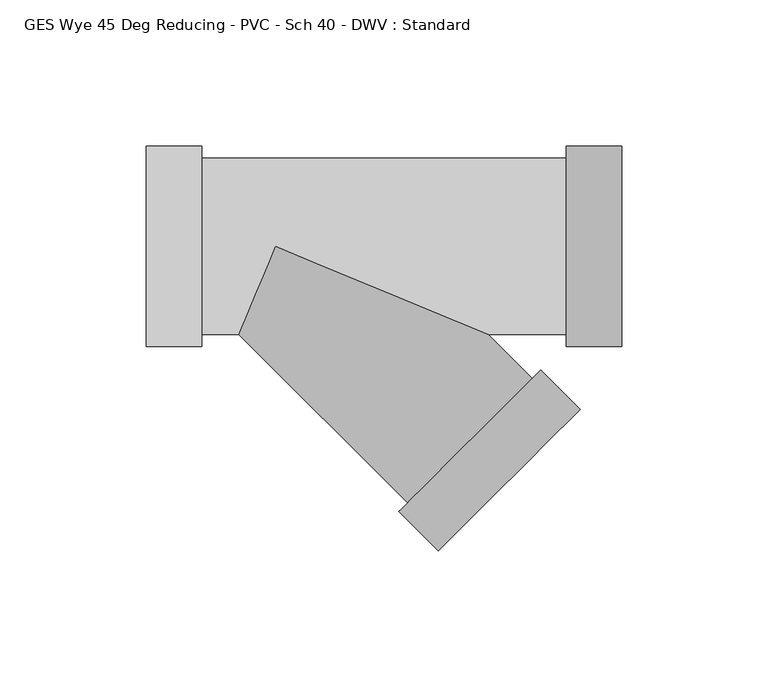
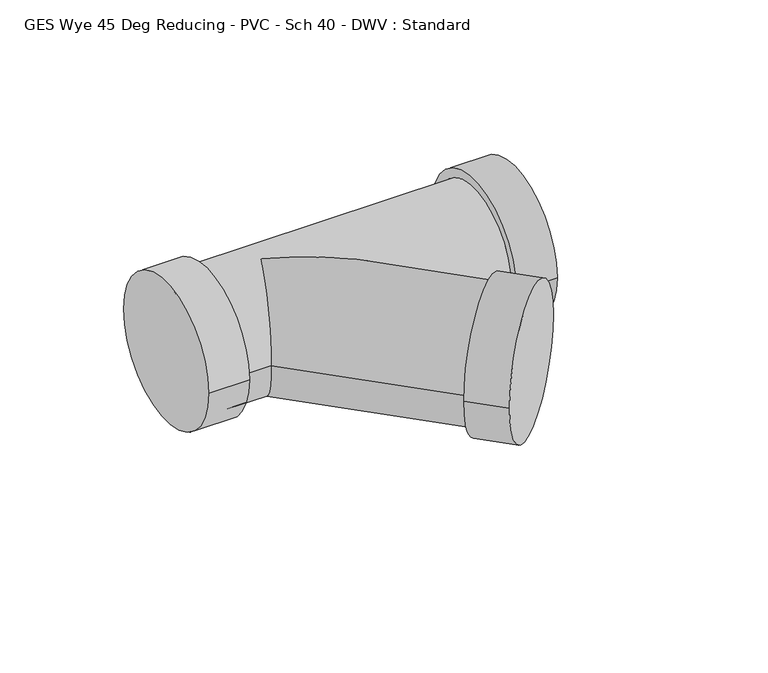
"""IFC4 building model written with IfcOpenShell, lengths in millimetres: pipe fitting geometry, GES Wye 45 Deg Reducing - PVC - Sch 40 - DWV : Standard."""

from ifc_helpers import new_model, si_unit, frame, origin, place, context, project, spatial, circle_curve, ellipse_curve, source, transform, mapped, element, save
from ifc_brep_helpers import plane_surface, cylinder_surface, advanced_brep


def ges_wye_45_deg_reducing_pvc_sch_40_dwv_standard_a6afa046(model_context):
    return source(origin(), model_context, "Body", "AdvancedBrep", [
        advanced_brep(
        [(-25.1182187, 34.3154, 0.0), (-25.1182187, -34.3154, 0.0), (-25.1182187, 30.1625, 0.0), (-25.1182187, -30.1625, 0.0), (-44.1682187, 34.3154, 0.0), (-44.1682187, -34.3154, 0.0), (99.5759375, -34.3154, 0.0), (99.5759375, 34.3154, 0.0), (99.5759375, -30.1625, 0.0), (99.5759375, 30.1625, 0.0), (118.6259375, -34.3154, 0.0), (118.6259375, 34.3154, 0.0), (72.8207162, -30.1625, 0.0), (0.0, 0.0, -30.1625), (-12.4933735, -30.1625, 0.0), (0.0, 0.0, 30.1625), (45.2818426, -87.9354725, 0.0), (87.9372309, -45.2784277, 0.0), (42.3453559, -90.8720733, 0.0), (90.8737177, -42.3418269, 0.0), (55.8160016, -104.3421959, 0.0), (104.3443634, -55.8119495, 0.0)],
        [
            (0, 1, circle_curve(frame((-25.1182187, 0.0, 0.0), z_axis=(1.0, 0.0, 0.0), x_axis=(0.0, -1.0, 0.0)), 34.3154)),
            (1, 0, circle_curve(frame((-25.1182187, 0.0, 0.0), z_axis=(1.0, 0.0, 0.0), x_axis=(0.0, -1.0, 0.0)), 34.3154)),
            (2, 3, circle_curve(frame((-25.1182187, 0.0, 0.0), z_axis=(-1.0, 0.0, 0.0), x_axis=(0.0, 0.0, -1.0)), 30.1625)),
            (3, 2, circle_curve(frame((-25.1182187, 0.0, 0.0), z_axis=(-1.0, 0.0, 0.0), x_axis=(0.0, 0.0, 1.0)), 30.1625)),
            (4, 5, circle_curve(frame((-44.1682187, 0.0, 0.0), z_axis=(-1.0, 0.0, 0.0), x_axis=(0.0, -1.0, 0.0)), 34.3154)),
            (5, 4, circle_curve(frame((-44.1682187, 0.0, 0.0), z_axis=(-1.0, 0.0, 0.0), x_axis=(0.0, -1.0, 0.0)), 34.3154)),
            (0, 4),
            (5, 1),
            (6, 7, circle_curve(frame((99.5759375, 0.0, 0.0), z_axis=(-1.0, 0.0, 0.0), x_axis=(0.0, 1.0, 0.0)), 34.3154)),
            (7, 6, circle_curve(frame((99.5759375, 0.0, 0.0), z_axis=(-1.0, 0.0, 0.0), x_axis=(0.0, 1.0, 0.0)), 34.3154)),
            (8, 9, circle_curve(frame((99.5759375, 0.0, 0.0), z_axis=(1.0, 0.0, 0.0), x_axis=(0.0, 0.0, -1.0)), 30.1625)),
            (9, 8, circle_curve(frame((99.5759375, 0.0, 0.0), z_axis=(1.0, 0.0, 0.0), x_axis=(0.0, 0.0, 1.0)), 30.1625)),
            (10, 11, circle_curve(frame((118.6259375, 0.0, 0.0), z_axis=(1.0, 0.0, 0.0), x_axis=(0.0, 1.0, 0.0)), 34.3154)),
            (11, 10, circle_curve(frame((118.6259375, 0.0, 0.0), z_axis=(1.0, 0.0, 0.0), x_axis=(0.0, 1.0, 0.0)), 34.3154)),
            (6, 10),
            (11, 7),
            (2, 9),
            (8, 12),
            (12, 13, ellipse_curve(frame((0.0, 0.0, 0.0), z_axis=(0.38267446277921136, 0.9238832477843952, 0.0), x_axis=(0.923883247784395, -0.3826744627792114, 0.0)), 78.8202583, 30.1625)),
            (13, 14, ellipse_curve(frame((0.0, 0.0, 0.0), z_axis=(-0.923883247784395, 0.38267446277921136, 0.0), x_axis=(0.3826744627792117, 0.9238832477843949, 0.0)), 32.6475235, 30.1625)),
            (14, 3),
            (14, 15, ellipse_curve(frame((0.0, 0.0, 0.0), z_axis=(-0.923883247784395, 0.38267446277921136, 0.0), x_axis=(0.3826744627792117, 0.9238832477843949, 0.0)), 32.6475235, 30.1625)),
            (15, 12, ellipse_curve(frame((0.0, 0.0, 0.0), z_axis=(0.38267446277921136, 0.9238832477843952, 0.0), x_axis=(0.923883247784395, -0.3826744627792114, 0.0)), 78.8202583, 30.1625)),
            (14, 16),
            (16, 17, circle_curve(frame((66.6095368, -66.6069501, 0.0), z_axis=(-0.707120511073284, 0.7070930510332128, 0.0), x_axis=(0.7070930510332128, 0.707120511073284, 0.0)), 30.1625)),
            (17, 12),
            (17, 16, circle_curve(frame((66.6095368, -66.6069501, 0.0), z_axis=(-0.707120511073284, 0.7070930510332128, 0.0), x_axis=(0.7070930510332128, 0.707120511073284, 0.0)), 30.1625)),
            (18, 19, circle_curve(frame((66.6095368, -66.6069501, 0.0), z_axis=(-0.707120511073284, 0.7070930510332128, 0.0), x_axis=(0.7070930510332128, 0.707120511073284, 0.0)), 34.3154)),
            (19, 18, circle_curve(frame((66.6095368, -66.6069501, 0.0), z_axis=(-0.707120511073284, 0.7070930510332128, 0.0), x_axis=(0.7070930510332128, 0.707120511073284, 0.0)), 34.3154)),
            (20, 21, circle_curve(frame((80.0801825, -80.0770727, 0.0), z_axis=(0.707120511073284, -0.7070930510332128, 0.0), x_axis=(0.7070930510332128, 0.707120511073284, 0.0)), 34.3154)),
            (21, 20, circle_curve(frame((80.0801825, -80.0770727, 0.0), z_axis=(0.707120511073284, -0.7070930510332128, 0.0), x_axis=(0.7070930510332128, 0.707120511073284, 0.0)), 34.3154)),
            (18, 20),
            (21, 19),
        ],
        [
            plane_surface(frame((-25.1182187, 0.0, 0.0), z_axis=(1.0, 0.0, 0.0), x_axis=(0.0, 0.0, 1.0))),
            plane_surface(frame((-44.1682187, 0.0, 0.0), z_axis=(-1.0, 0.0, 0.0), x_axis=(0.0, 0.0, 1.0))),
            cylinder_surface(frame((-25.1182187, 0.0, 0.0), z_axis=(1.0, 0.0, 0.0), x_axis=(0.0, -1.0, 0.0)), 34.3154),
            plane_surface(frame((99.5759375, 0.0, 0.0), z_axis=(-1.0, 0.0, 0.0), x_axis=(0.0, 0.0, 1.0))),
            plane_surface(frame((118.6259375, 0.0, 0.0), z_axis=(1.0, 0.0, 0.0), x_axis=(0.0, 0.0, 1.0))),
            cylinder_surface(frame((99.5759375, 0.0, 0.0), z_axis=(-1.0, 0.0, 0.0), x_axis=(0.0, 1.0, 0.0)), 34.3154),
            cylinder_surface(frame((-25.1182187, 0.0, 0.0), z_axis=(1.0, 0.0, 0.0), x_axis=(0.0, 0.0, -1.0)), 30.1625),
            cylinder_surface(frame((-25.1182187, 0.0, 0.0), z_axis=(1.0, 0.0, 0.0), x_axis=(0.0, 0.0, 1.0)), 30.1625),
            cylinder_surface(frame((0.0, 0.0, 0.0), z_axis=(-0.707120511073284, 0.7070930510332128, 0.0), x_axis=(0.7070930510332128, 0.707120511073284, 0.0)), 30.1625),
            plane_surface(frame((66.6095368, -66.6069501, 0.0), z_axis=(-0.707120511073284, 0.7070930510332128, 0.0), x_axis=(0.0, 0.0, 1.0))),
            plane_surface(frame((80.0801825, -80.0770727, 0.0), z_axis=(0.707120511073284, -0.7070930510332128, 0.0), x_axis=(0.0, 0.0, 1.0))),
            cylinder_surface(frame((66.6095368, -66.6069501, 0.0), z_axis=(-0.707120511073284, 0.7070930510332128, 0.0), x_axis=(0.7070930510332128, 0.707120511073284, 0.0)), 34.3154),
        ],
        [
            (0, [[1, 2], [3, 4]]),
            (1, [[5, 6]]),
            (2, [[-1, 7, -6, 8]]),
            (2, [[-2, -8, -5, -7]]),
            (3, [[9, 10], [11, 12]]),
            (4, [[13, 14]]),
            (5, [[-9, 15, -14, 16]]),
            (5, [[-10, -16, -13, -15]]),
            (6, [[17, -11, 18, 19, 20, 21, -3]]),
            (7, [[-17, -4, -21, 22, 23, -18, -12]]),
            (8, [[24, 25, 26, -23, -22]]),
            (8, [[-24, -20, -19, -26, 27]]),
            (9, [[28, 29], [-25, -27]]),
            (10, [[30, 31]]),
            (11, [[-28, 32, -31, 33]]),
            (11, [[-29, -33, -30, -32]]),
        ],
    ),
    ])


if __name__ == "__main__":
    model = new_model("IFC4")
    model_context = context("Model", 3, world=origin())
    ifc_project = project(units=[si_unit("LENGTHUNIT", "METRE", prefix="MILLI")], contexts=[model_context])
    site = spatial("IfcSite", under=ifc_project)
    building = spatial("IfcBuilding", under=site)
    placement = place(None, origin())
    ges_wye_45_deg_reducing_pvc_sch_40_dwv_standard_shape = ges_wye_45_deg_reducing_pvc_sch_40_dwv_standard_a6afa046(model_context)
    element("IfcPipeFitting", 1, ObjectType="GES Wye 45 Deg Reducing - PVC - Sch 40 - DWV : Standard", at=placement, inside=building, context=model_context, shape_type="MappedRepresentation", body=[
        mapped(ges_wye_45_deg_reducing_pvc_sch_40_dwv_standard_shape, transform((0.0, 0.0, 0.0), x_axis=(1.0, 0.0, 0.0), y_axis=(0.0, 1.0, 0.0), z_axis=(0.0, 0.0, 1.0))),
    ])
    save(model, "model.ifc")
